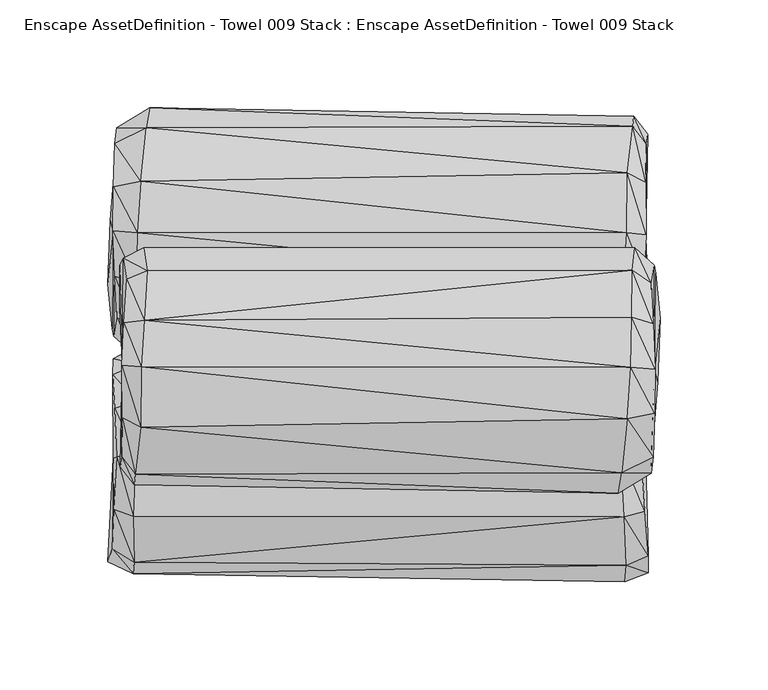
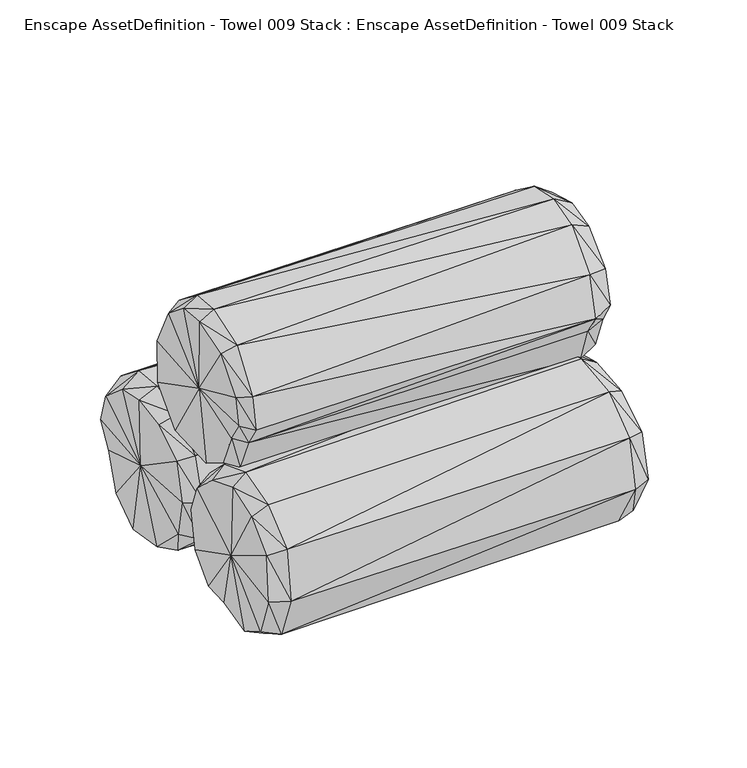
"""IFC4 building model written with IfcOpenShell, lengths in millimetres: geographic element geometry, Enscape AssetDefinition - Towel 009 Stack : Enscape AssetDefinition - Towel 009 Stack."""

from ifc_helpers import new_model, si_unit, origin, place, context, project, spatial, triangles, source, transform, mapped, element, save


def enscape_assetdefinition_towel_009_stack_enscape_b6bb47ce(model_context):
    return source(origin(), model_context, "Body", "Tessellation", [
        triangles([(114.7366194, 2.7149931, 103.7511708), (-110.8153017, 26.6015444, 98.5972157), (-112.2309312, 2.8496413, 102.5626078), (122.8191748, -17.777208, 95.2242839), (123.659485, 1.9303626, 97.8131975), (-123.7274224, 3.7309734, 96.2066095), (-112.7579066, -20.4946475, 97.2109541), (-122.7408274, -17.34511, 91.3360129), (-123.3975461, 2.6133951, 50.7274042), (-123.4464984, 24.0695519, 91.810348), (-108.0831647, 51.3945237, 79.3756056), (-122.7120592, 44.234314, 74.3305919), (-121.7413608, 51.3981936, 53.0831334), (117.3396128, 52.1760939, 72.7337826), (-122.0841088, 41.6454004, 37.372771), (117.8463769, 56.7461684, 52.1534527), (-106.5751081, 60.6558589, 54.4944889), (-123.0327609, 31.4647855, 13.7653094), (-109.4994209, 46.6451225, 36.3757639), (-111.0276707, 35.249009, 10.2087655), (-124.9490502, 8.3059457, 2.8569857), (115.9392622, 44.4105796, 35.4093621), (-113.6539184, 8.1988387, -2.4781353), (-114.1490554, -24.0903628, 4.066369), (111.6470551, 7.7226749, -1.8501859), (113.7616426, -27.3366013, 1.886296), (113.6055656, 30.3924967, 9.1181174), (123.049902, 26.9987608, 13.3950274), (122.642296, 6.8652116, 1.1132941), (114.319194, -49.484366, 25.5286493), (124.5132937, -25.7153204, 5.7121354), (124.7238187, -45.397179, 27.91314), (123.0854012, -48.3055771, 54.4485888), (113.4268611, -53.2147251, 54.7405313), (111.8918712, -42.0989156, 82.5349331), (-113.0345431, -42.310685, 81.2998431), (-113.7016626, -49.1667164, 26.8243302), (-114.1980168, -53.0500867, 54.7790918), (113.2634444, -19.08574, 100.3409138), (121.32151, -38.1439381, 79.2305563), (124.3510943, 48.3851416, 52.1014301), (123.8045434, 43.9129946, 69.393902), (123.4373238, 0.3268274, 50.0896661), (114.9887661, 30.5210272, 95.222449), (123.3755089, 26.1327299, 89.6125171), (123.36142, 38.0564184, 37.3097366), (-121.9580264, -36.4002468, 76.9611181), (-123.8834903, -41.6986448, 29.491582), (-123.2224932, -45.1376791, 53.6572263), (-125.9821812, -21.0644551, 8.8157711), (114.7366194, -57.3404635, 79.6681568), (-112.2309312, -58.2615782, 78.9067843), (123.659485, -62.7429044, 77.082913), (-123.4464984, -55.6793912, 55.2583095), (-112.7579066, -75.4946833, 95.5382546), (-113.0345431, -100.7387366, 105.122744), (-122.7408274, -78.6962412, 89.691473), (-123.7274224, -63.1046238, 74.6965852), (-122.7120592, -59.3081577, 28.8201772), (-110.8153017, -48.6109863, 56.8440957), (-123.3975461, -101.8116271, 50.7928935), (114.9887661, -49.2970773, 51.7182958), (-108.0831647, -51.1711317, 25.5776107), (-121.7413608, -73.1934248, 11.2143409), (-109.4994209, -89.7844997, 6.0707885), (117.8463769, -71.0506868, 6.2268575), (-106.5751081, -66.9549384, 4.2303951), (-122.0841088, -91.6799872, 10.8030527), (-111.0276707, -117.928385, 1.3250586), (-123.0327609, -117.0158408, 6.4373978), (-124.9490502, -138.8025015, 19.8789397), (-113.6539184, -143.3297415, 17.0550046), (-114.1490554, -155.4835509, 47.6764049), (111.6470551, -143.0640964, 17.7967925), (113.6055656, -121.4941103, 4.7977529), (123.049902, -119.7651006, 9.976192), (122.642296, -141.0498934, 20.1335458), (115.9392622, -91.8146265, 7.4148204), (124.5132937, -154.9920656, 49.937268), (113.7616426, -159.0823319, 49.2052724), (124.7238187, -147.1451699, 78.5499656), (123.4373238, -103.5944943, 52.3603214), (114.319194, -151.3743359, 80.6706755), (-113.7016626, -150.1159824, 81.1125635), (123.0854012, -126.5054687, 95.4782746), (113.4268611, -128.9425928, 99.7502885), (-114.1980168, -128.8201802, 99.6333898), (-121.9580264, -101.1451253, 97.8015703), (-123.2224932, -125.4380647, 92.3930069), (113.2634444, -72.1039973, 96.0676645), (111.8918712, -99.5887159, 105.6203336), (121.32151, -100.1964641, 100.5024864), (122.8191748, -75.6752364, 92.1775585), (123.3755089, -56.3936372, 52.3297183), (117.3396128, -56.3079547, 21.2951914), (123.8045434, -63.6187276, 26.392843), (124.3510943, -75.6617652, 13.2022351), (123.36142, -93.6935816, 13.7751017), (-123.8834903, -143.8028322, 76.3135832), (-125.9821812, -149.8521995, 47.7363895), (-110.8238677, -87.4000159, 185.934799), (-110.5717029, -59.4978899, 194.1440363), (-118.6536496, -39.1048396, 185.3833428), (-119.493978, -58.7811959, 188.1974879), (116.3958386, -59.6460004, 192.9572991), (-109.0979193, -37.7375494, 190.4840671), (114.9808178, -83.4419726, 189.2642833), (127.611415, -80.988316, 182.4486382), (127.8929385, -60.6001619, 186.6117199), (116.9228141, -36.3647498, 187.3381835), (117.2000592, -14.7323266, 171.1779781), (127.5630622, -60.0046541, 141.1227178), (112.2486899, -108.4534546, 170.3284842), (126.8775753, -101.3519804, 165.2014534), (-113.1746962, -109.3115236, 163.6958403), (110.7406242, -117.9999831, 145.5550962), (126.2490163, -99.1866056, 128.2161019), (125.906886, -108.7588593, 144.037856), (113.664937, -104.1973463, 127.2766334), (127.1982952, -89.2771269, 104.4935673), (115.1925781, -93.1023477, 100.9804823), (117.8188259, -66.1990707, 87.9851182), (129.1145663, -66.2449754, 93.3208481), (118.3145805, -33.8376489, 94.1581244), (-107.481539, -65.7155655, 88.6075548), (-109.5961174, -30.6165042, 91.9419261), (-109.4400496, -88.2587025, 99.8347492), (-118.8843859, -84.8159984, 104.0724902), (-119.1965307, -95.5988432, 128.1120657), (-118.4767618, -64.8244407, 91.5606358), (-120.3477595, -32.1931135, 95.7855233), (-119.2717986, -57.724815, 140.4592681), (-110.153687, -8.1988387, 115.3284438), (-120.5583026, -12.2578637, 117.7594636), (-118.9198852, -9.046509, 144.2594086), (-109.261345, -4.1336935, 144.495041), (127.3874007, -12.2229776, 143.5047672), (117.8671787, -8.5017959, 116.6271835), (118.3635419, -4.297719, 144.5354364), (-107.726346, -14.9300139, 172.4155297), (126.9063344, -39.5816138, 181.4999861), (126.1235516, -20.6923348, 166.9071995), (-117.1559939, -18.9223268, 169.1564263), (-119.6390273, -101.0869802, 160.2610936), (-119.2099928, -83.0765879, 180.2746975), (-120.1861869, -105.7568078, 143.0212574), (-113.6814694, -114.117235, 143.169377), (-111.7737461, -101.9738174, 126.2851333), (128.0490154, -15.9386494, 119.3801314), (130.1476791, -36.808475, 98.9417986)], [[149, 150, 124], [150, 149, 112], [149, 137, 112], [142, 141, 112], [137, 142, 112], [146, 129, 148], [148, 147, 146], [144, 146, 147], [147, 115, 144], [145, 144, 115], [115, 101, 145], [104, 145, 101], [129, 146, 132], [146, 144, 132], [144, 145, 132], [145, 104, 132], [104, 103, 132], [103, 143, 132], [143, 135, 132], [143, 103, 106], [106, 140, 143], [135, 143, 140], [141, 142, 111], [111, 140, 106], [142, 137, 139], [139, 111, 142], [137, 149, 138], [138, 139, 137], [124, 138, 149], [140, 136, 135], [111, 139, 136], [136, 140, 111], [136, 139, 138], [135, 134, 132], [134, 135, 136], [136, 133, 134], [138, 133, 136], [133, 138, 124], [134, 131, 132], [131, 134, 133], [133, 126, 131], [124, 126, 133], [131, 130, 132], [130, 131, 126], [130, 128, 132], [128, 129, 132], [129, 128, 127], [127, 148, 129], [126, 125, 130], [128, 130, 125], [125, 127, 128], [122, 124, 150], [122, 125, 126], [126, 124, 122], [123, 150, 112], [150, 123, 122], [121, 122, 123], [121, 127, 125], [125, 122, 121], [148, 127, 121], [120, 123, 112], [123, 120, 121], [119, 121, 120], [121, 119, 148], [117, 120, 112], [120, 117, 119], [116, 119, 117], [116, 147, 148], [148, 119, 116], [115, 147, 116], [118, 117, 112], [117, 118, 116], [113, 116, 118], [116, 113, 115], [113, 107, 101], [101, 115, 113], [114, 118, 112], [118, 114, 113], [107, 113, 114], [108, 114, 112], [114, 108, 107], [141, 109, 112], [109, 108, 112], [109, 141, 110], [111, 110, 141], [106, 110, 111], [110, 105, 109], [108, 109, 105], [105, 107, 108], [105, 110, 106], [103, 104, 102], [102, 106, 103], [101, 102, 104], [106, 102, 105], [107, 105, 102], [102, 101, 107], [99, 100, 73], [100, 99, 61], [99, 89, 61], [88, 57, 61], [89, 88, 61], [97, 98, 78], [78, 66, 97], [96, 97, 66], [66, 95, 96], [94, 96, 95], [95, 62, 94], [53, 94, 62], [98, 97, 82], [97, 96, 82], [96, 94, 82], [94, 53, 82], [53, 93, 82], [93, 92, 82], [92, 85, 82], [92, 93, 90], [90, 91, 92], [85, 92, 91], [57, 88, 56], [56, 91, 90], [88, 89, 87], [87, 56, 88], [89, 99, 84], [84, 87, 89], [73, 84, 99], [91, 86, 85], [56, 87, 86], [86, 91, 56], [86, 87, 84], [85, 81, 82], [81, 85, 86], [86, 83, 81], [84, 83, 86], [83, 84, 73], [81, 79, 82], [79, 81, 83], [83, 80, 79], [73, 80, 83], [79, 77, 82], [77, 79, 80], [77, 76, 82], [76, 98, 82], [98, 76, 75], [75, 78, 98], [80, 74, 77], [76, 77, 74], [74, 75, 76], [72, 73, 100], [72, 74, 80], [80, 73, 72], [71, 100, 61], [100, 71, 72], [69, 72, 71], [69, 75, 74], [74, 72, 69], [78, 75, 69], [70, 71, 61], [71, 70, 69], [65, 69, 70], [69, 65, 78], [68, 70, 61], [70, 68, 65], [67, 65, 68], [67, 66, 78], [78, 65, 67], [95, 66, 67], [64, 68, 61], [68, 64, 67], [63, 67, 64], [67, 63, 95], [63, 60, 62], [62, 95, 63], [59, 64, 61], [64, 59, 63], [60, 63, 59], [54, 59, 61], [59, 54, 60], [57, 58, 61], [58, 54, 61], [58, 57, 55], [56, 55, 57], [90, 55, 56], [55, 52, 58], [54, 58, 52], [52, 60, 54], [52, 55, 90], [93, 53, 51], [51, 90, 93], [62, 51, 53], [90, 51, 52], [60, 52, 51], [51, 62, 60], [48, 50, 24], [50, 48, 9], [48, 49, 9], [47, 8, 9], [49, 47, 9], [41, 46, 22], [22, 16, 41], [42, 41, 16], [16, 14, 42], [45, 42, 14], [14, 44, 45], [5, 45, 44], [46, 41, 43], [41, 42, 43], [42, 45, 43], [45, 5, 43], [5, 4, 43], [4, 40, 43], [40, 33, 43], [40, 4, 39], [39, 35, 40], [33, 40, 35], [8, 47, 36], [36, 35, 39], [47, 49, 38], [38, 36, 47], [49, 48, 37], [37, 38, 49], [24, 37, 48], [35, 34, 33], [36, 38, 34], [34, 35, 36], [34, 38, 37], [33, 32, 43], [32, 33, 34], [34, 30, 32], [37, 30, 34], [30, 37, 24], [32, 31, 43], [31, 32, 30], [30, 26, 31], [24, 26, 30], [31, 29, 43], [29, 31, 26], [29, 28, 43], [28, 46, 43], [46, 28, 27], [27, 22, 46], [26, 25, 29], [28, 29, 25], [25, 27, 28], [23, 24, 50], [23, 25, 26], [26, 24, 23], [21, 50, 9], [50, 21, 23], [20, 23, 21], [20, 27, 25], [25, 23, 20], [22, 27, 20], [18, 21, 9], [21, 18, 20], [19, 20, 18], [20, 19, 22], [15, 18, 9], [18, 15, 19], [17, 19, 15], [17, 16, 22], [22, 19, 17], [14, 16, 17], [13, 15, 9], [15, 13, 17], [11, 17, 13], [17, 11, 14], [11, 2, 44], [44, 14, 11], [12, 13, 9], [13, 12, 11], [2, 11, 12], [10, 12, 9], [12, 10, 2], [8, 6, 9], [6, 10, 9], [6, 8, 7], [36, 7, 8], [39, 7, 36], [7, 3, 6], [10, 6, 3], [3, 2, 10], [3, 7, 39], [4, 5, 1], [1, 39, 4], [44, 1, 5], [39, 1, 3], [2, 3, 1], [1, 44, 2]]),
    ])


if __name__ == "__main__":
    model = new_model("IFC4")
    model_context = context("Model", 3, world=origin())
    ifc_project = project(units=[si_unit("LENGTHUNIT", "METRE", prefix="MILLI")], contexts=[model_context])
    site = spatial("IfcSite", under=ifc_project)
    building = spatial("IfcBuilding", under=site)
    placement = place(None, origin())
    enscape_assetdefinition_towel_009_stack_enscape_shape = enscape_assetdefinition_towel_009_stack_enscape_b6bb47ce(model_context)
    element("IfcGeographicElement", 1, ObjectType="Enscape AssetDefinition - Towel 009 Stack : Enscape AssetDefinition - Towel 009 Stack", at=placement, inside=building, context=model_context, shape_type="MappedRepresentation", body=[
        mapped(enscape_assetdefinition_towel_009_stack_enscape_shape, transform((0.0, 0.0, 0.0), x_axis=(1.0, 0.0, 0.0), y_axis=(0.0, 1.0, 0.0), z_axis=(0.0, 0.0, 1.0))),
    ])
    save(model, "model.ifc")
